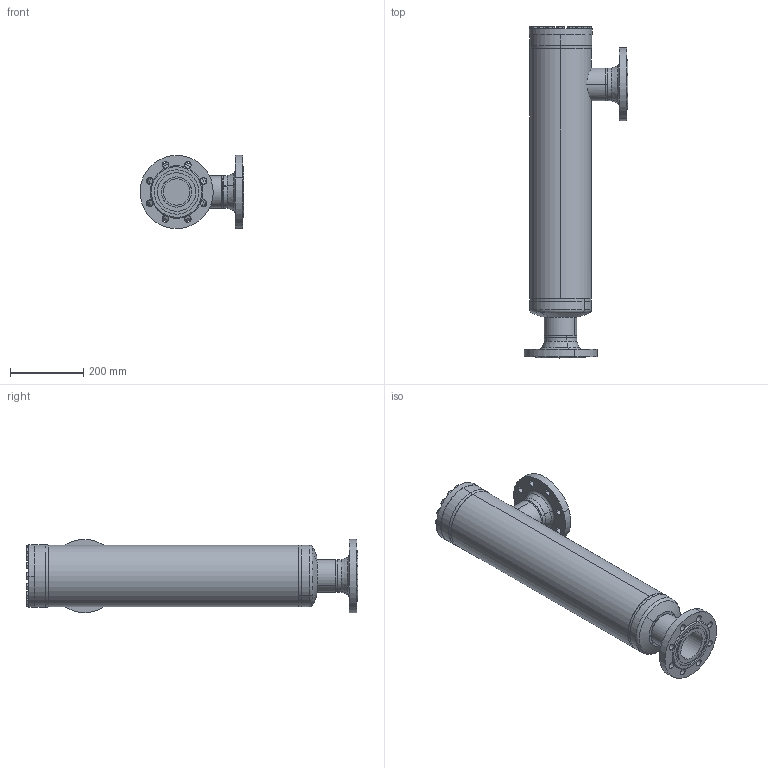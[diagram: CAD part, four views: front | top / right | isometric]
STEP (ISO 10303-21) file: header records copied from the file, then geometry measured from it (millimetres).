
FILE_DESCRIPTION (( 'STEP AP214' ), '1' );
FILE_NAME ('FT56720D18-DN80-8-4_DIN-FL-N_PS40.STEP', '2010-09-13T08:58:36', ( 'Eckhard Grams' ), ( 'AWP Kälte Klima Armaturen GmbH' ), 'SwSTEP 2.0', 'SolidWorks 2002296', '' );
FILE_SCHEMA (( 'AUTOMOTIVE_DESIGN' ));
Length unit declared in the file: millimetre
Products named in the file (18): FT56720D18-DN80-8-4_DIN-FL-N_PS40; Flansch-DIN2635-Nut_PS40_DIN-Flansch-DN080_PS40-Nut; FT56700D18-DN80-8-4_PS40_Standard; Geh-kpl-FT-DN80-8-4-PS40_Standard; Rohrstutzen-FT-DN20-80_DN 80; FT Boden-Führungsrohr DN80_PS25_Standard; bead-Bo-Fü-80_Standard; Führungsrohr-FT-DN80_Standard; Boden-FT-DN20-80_DN 80; Kopfstück-FT-DN50-80_PS40_Standard; bead80-Geh-Bo1_Standard; bead80-Geh-Ko4_Standard; Gehäuse-FT-DN50-80_PS40_80-4; FT Deckel-Schrauben-DN50-80_PS40_Standard; Deckel56700E17-DN50-80_PS40_Standard; Sechskantschraube-DIN933_M12x 30; bead56720-80-8b_Standard; bead56720-80-8a_Standard
Assembly tree (33 placements, depth 5):
  FT56720D18-DN80-8-4_DIN-FL-N_PS40
    FT56700D18-DN80-8-4_PS40_Standard
      Geh-kpl-FT-DN80-8-4-PS40_Standard
        bead80-Geh-Bo1_Standard
        Gehäuse-FT-DN50-80_PS40_80-4
        FT Boden-Führungsrohr DN80_PS25_Standard
          Boden-FT-DN20-80_DN 80
          Führungsrohr-FT-DN80_Standard
          bead-Bo-Fü-80_Standard
        Kopfstück-FT-DN50-80_PS40_Standard
        Rohrstutzen-FT-DN20-80_DN 80
        bead80-Geh-Ko4_Standard
      FT Deckel-Schrauben-DN50-80_PS40_Standard
        Sechskantschraube-DIN933_M12x 30  x16
        Deckel56700E17-DN50-80_PS40_Standard
    bead56720-80-8a_Standard
    Flansch-DIN2635-Nut_PS40_DIN-Flansch-DN080_PS40-Nut  x2
    bead56720-80-8b_Standard
Bounding box: 283.9 x 906.86 x 199.81 mm (x, y, z)
Volume: 4627274.7 mm3; surface area: 1241255.8 mm2
Topology: 29 solids, 29 shells, 751 faces, 1698 edges, 1010 vertices
Faces by surface type: cone 306, cylinder 221, plane 190, bspline 20, torus 10, sphere 4
Entity records: 17664 total; most frequent: CARTESIAN_POINT 8964, DIRECTION 1764, ORIENTED_EDGE 1536, EDGE_CURVE 768, AXIS2_PLACEMENT_3D 758, VERTEX_POINT 484, EDGE_LOOP 434, CIRCLE 402
